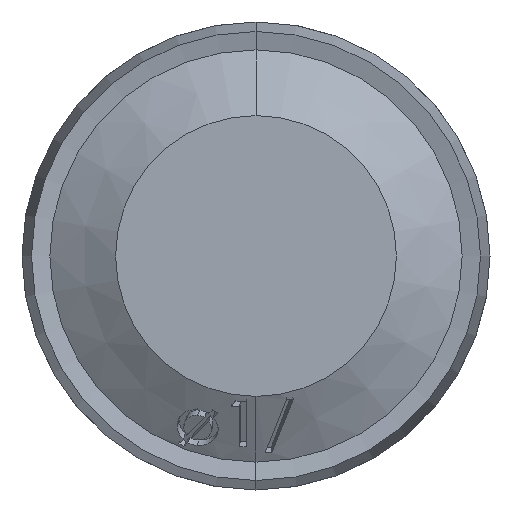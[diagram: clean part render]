
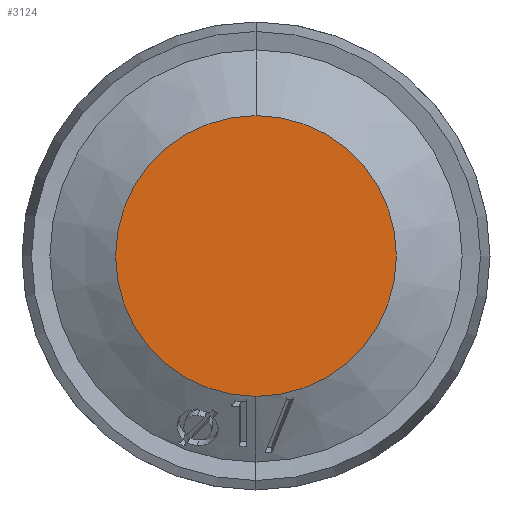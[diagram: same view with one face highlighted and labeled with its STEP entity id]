
A CAD part, front view. The second image highlights one B-rep face of the part: STEP entity #3124.
In plain terms, the highlighted planar face has unit normal (0, -1, 0).
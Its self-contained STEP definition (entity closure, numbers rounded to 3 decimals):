
#27 = DIRECTION ( 'NONE',  ( 0., -1., 0. ) ) ;
#70 = CARTESIAN_POINT ( 'NONE',  ( 0., -4.9, 0. ) ) ;
#456 = AXIS2_PLACEMENT_3D ( 'NONE', #5941, #5945, #5946 ) ;
#655 = CIRCLE ( 'NONE', #4035, 3.75 ) ;
#730 = FACE_OUTER_BOUND ( 'NONE', #6107, .T. ) ;
#1209 = DIRECTION ( 'NONE',  ( 0., 0., 1. ) ) ;
#1376 = CIRCLE ( 'NONE', #2797, 3.75 ) ;
#1549 = EDGE_CURVE ( 'NONE', #5328, #5296, #1376, .T. ) ;
#1874 = EDGE_CURVE ( 'NONE', #5296, #5328, #655, .T. ) ;
#2797 = AXIS2_PLACEMENT_3D ( 'NONE', #70, #27, #1209 ) ;
#3079 = CARTESIAN_POINT ( 'NONE',  ( 0., -4.9, 0. ) ) ;
#3080 = DIRECTION ( 'NONE',  ( 0., -1., 0. ) ) ;
#3081 = DIRECTION ( 'NONE',  ( 0., 0., 1. ) ) ;
#3124 = ADVANCED_FACE ( 'NONE', ( #730 ), #5942, .F. ) ;
#3753 = CARTESIAN_POINT ( 'NONE',  ( 0., -4.9, 3.75 ) ) ;
#3850 = ORIENTED_EDGE ( 'NONE', *, *, #1874, .T. ) ;
#3851 = ORIENTED_EDGE ( 'NONE', *, *, #1549, .T. ) ;
#4035 = AXIS2_PLACEMENT_3D ( 'NONE', #3079, #3080, #3081 ) ;
#4300 = CARTESIAN_POINT ( 'NONE',  ( 0., -4.9, -3.75 ) ) ;
#5296 = VERTEX_POINT ( 'NONE', #4300 ) ;
#5328 = VERTEX_POINT ( 'NONE', #3753 ) ;
#5941 = CARTESIAN_POINT ( 'NONE',  ( -3.539, -4.9, 0. ) ) ;
#5942 = PLANE ( 'NONE',  #456 ) ;
#5945 = DIRECTION ( 'NONE',  ( 0., 1., 0. ) ) ;
#5946 = DIRECTION ( 'NONE',  ( 0., 0., -1. ) ) ;
#6107 = EDGE_LOOP ( 'NONE', ( #3850, #3851 ) ) ;
